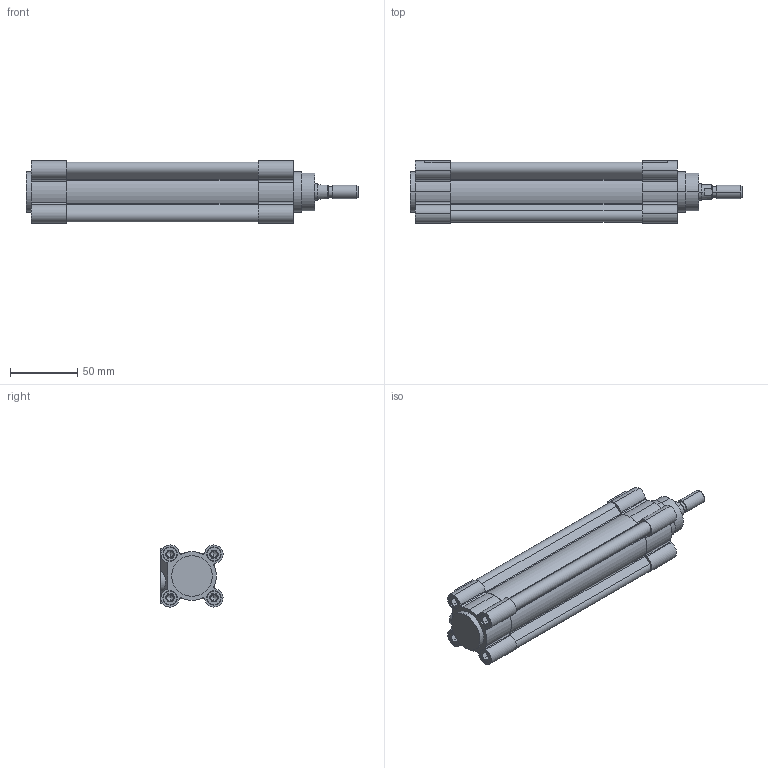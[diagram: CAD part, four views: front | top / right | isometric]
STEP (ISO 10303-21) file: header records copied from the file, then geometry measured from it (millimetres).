
FILE_DESCRIPTION (( 'STEP AP203' ), '1' );
FILE_NAME ('CPME32-100.STEP', '2024-12-17T14:03:41', ( '' ), ( '' ), 'SwSTEP 2.0', 'SolidWorks 2019', '' );
FILE_SCHEMA (( 'CONFIG_CONTROL_DESIGN' ));
Length unit declared in the file: millimetre
Products named in the file (1): CPME32-100
Bounding box: 246 x 45.99 x 45.99 mm (x, y, z)
Volume: 236085.8 mm3; surface area: 92855 mm2
Topology: 4 solids, 4 shells, 398 faces, 979 edges, 606 vertices
Faces by surface type: plane 189, cylinder 165, cone 44
Entity records: 11726 total; most frequent: DIRECTION 2139, CARTESIAN_POINT 2042, ORIENTED_EDGE 1918, EDGE_CURVE 959, AXIS2_PLACEMENT_3D 791, VERTEX_POINT 606, VECTOR 557, LINE 557
